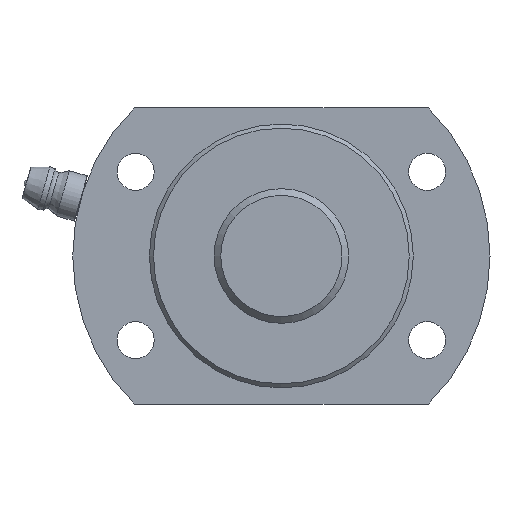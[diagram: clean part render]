
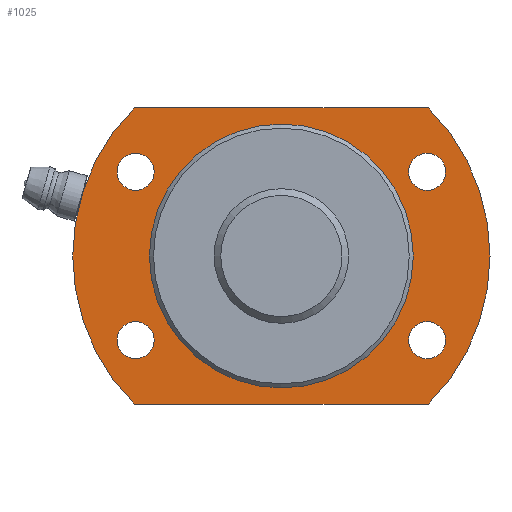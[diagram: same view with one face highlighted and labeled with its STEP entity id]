
A CAD part, left-side view. The second image highlights one B-rep face of the part: STEP entity #1025.
In plain terms, the highlighted planar face has unit normal (-1, 0, 0).
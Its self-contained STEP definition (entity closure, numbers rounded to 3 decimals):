
#551=CARTESIAN_POINT('',(235.168,0.,-19.6));
#552=VERTEX_POINT('',#551);
#553=CARTESIAN_POINT('',(235.168,0.0,0.0));
#554=DIRECTION('',(-1.0,0.0,0.0));
#555=DIRECTION('',(0.0,-1.0,0.0));
#556=AXIS2_PLACEMENT_3D('',#553,#554,#555);
#557=CIRCLE('',#556,19.6);
#558=EDGE_CURVE('',#552,#552,#557,.T.);
#692=CARTESIAN_POINT('',(235.168,-24.401,-12.5));
#693=VERTEX_POINT('',#692);
#694=CARTESIAN_POINT('',(235.168,-21.651,-12.5));
#695=DIRECTION('',(1.0,0.0,0.0));
#696=DIRECTION('',(0.0,1.0,0.0));
#697=AXIS2_PLACEMENT_3D('',#694,#695,#696);
#698=CIRCLE('',#697,2.75);
#699=EDGE_CURVE('',#693,#693,#698,.T.);
#741=CARTESIAN_POINT('',(235.168,18.901,12.5));
#742=VERTEX_POINT('',#741);
#743=CARTESIAN_POINT('',(235.168,21.651,12.5));
#744=DIRECTION('',(1.0,0.0,0.0));
#745=DIRECTION('',(0.0,1.0,0.0));
#746=AXIS2_PLACEMENT_3D('',#743,#744,#745);
#747=CIRCLE('',#746,2.75);
#748=EDGE_CURVE('',#742,#742,#747,.T.);
#790=CARTESIAN_POINT('',(235.168,18.901,-12.5));
#791=VERTEX_POINT('',#790);
#792=CARTESIAN_POINT('',(235.168,21.651,-12.5));
#793=DIRECTION('',(1.0,0.0,0.0));
#794=DIRECTION('',(0.0,1.0,0.0));
#795=AXIS2_PLACEMENT_3D('',#792,#793,#794);
#796=CIRCLE('',#795,2.75);
#797=EDGE_CURVE('',#791,#791,#796,.T.);
#839=CARTESIAN_POINT('',(235.168,-24.401,12.5));
#840=VERTEX_POINT('',#839);
#841=CARTESIAN_POINT('',(235.168,-21.651,12.5));
#842=DIRECTION('',(1.0,0.0,0.0));
#843=DIRECTION('',(0.0,1.0,0.0));
#844=AXIS2_PLACEMENT_3D('',#841,#842,#843);
#845=CIRCLE('',#844,2.75);
#846=EDGE_CURVE('',#840,#840,#845,.T.);
#867=CARTESIAN_POINT('',(235.168,-21.84,22.0));
#868=VERTEX_POINT('',#867);
#869=CARTESIAN_POINT('',(235.168,-21.84,-22.0));
#870=VERTEX_POINT('',#869);
#871=CARTESIAN_POINT('',(235.168,0.0,0.0));
#872=DIRECTION('',(1.0,0.0,0.0));
#873=DIRECTION('',(0.0,0.0,-1.0));
#874=AXIS2_PLACEMENT_3D('',#871,#872,#873);
#875=CIRCLE('',#874,31.0);
#876=EDGE_CURVE('',#868,#870,#875,.T.);
#909=CARTESIAN_POINT('',(235.168,21.84,-22.0));
#910=VERTEX_POINT('',#909);
#911=CARTESIAN_POINT('',(235.168,-21.84,-22.0));
#912=DIRECTION('',(0.0,1.0,0.0));
#913=VECTOR('',#912,43.681);
#914=LINE('',#911,#913);
#915=EDGE_CURVE('',#870,#910,#914,.T.);
#940=CARTESIAN_POINT('',(235.168,21.84,22.0));
#941=VERTEX_POINT('',#940);
#942=CARTESIAN_POINT('',(235.168,0.0,0.0));
#943=DIRECTION('',(1.0,0.0,0.0));
#944=DIRECTION('',(0.0,0.0,-1.0));
#945=AXIS2_PLACEMENT_3D('',#942,#943,#944);
#946=CIRCLE('',#945,31.0);
#947=EDGE_CURVE('',#910,#941,#946,.T.);
#982=CARTESIAN_POINT('',(235.168,21.84,22.0));
#983=DIRECTION('',(0.0,-1.0,0.0));
#984=VECTOR('',#983,43.681);
#985=LINE('',#982,#984);
#986=EDGE_CURVE('',#941,#868,#985,.T.);
#999=CARTESIAN_POINT('',(235.168,0.0,0.));
#1000=DIRECTION('',(1.0,0.0,0.0));
#1001=DIRECTION('',(0.0,0.0,-1.0));
#1002=AXIS2_PLACEMENT_3D('',#999,#1000,#1001);
#1003=PLANE('',#1002);
#1004=ORIENTED_EDGE('',*,*,#876,.F.);
#1005=ORIENTED_EDGE('',*,*,#986,.F.);
#1006=ORIENTED_EDGE('',*,*,#947,.F.);
#1007=ORIENTED_EDGE('',*,*,#915,.F.);
#1008=EDGE_LOOP('',(#1004,#1005,#1006,#1007));
#1009=FACE_OUTER_BOUND('',#1008,.T.);
#1010=ORIENTED_EDGE('',*,*,#699,.T.);
#1011=EDGE_LOOP('',(#1010));
#1012=FACE_BOUND('',#1011,.T.);
#1013=ORIENTED_EDGE('',*,*,#748,.T.);
#1014=EDGE_LOOP('',(#1013));
#1015=FACE_BOUND('',#1014,.T.);
#1016=ORIENTED_EDGE('',*,*,#797,.T.);
#1017=EDGE_LOOP('',(#1016));
#1018=FACE_BOUND('',#1017,.T.);
#1019=ORIENTED_EDGE('',*,*,#846,.T.);
#1020=EDGE_LOOP('',(#1019));
#1021=FACE_BOUND('',#1020,.T.);
#1022=ORIENTED_EDGE('',*,*,#558,.F.);
#1023=EDGE_LOOP('',(#1022));
#1024=FACE_BOUND('',#1023,.T.);
#1025=ADVANCED_FACE('',(#1009,#1012,#1015,#1018,#1021,#1024),#1003,.F.);
